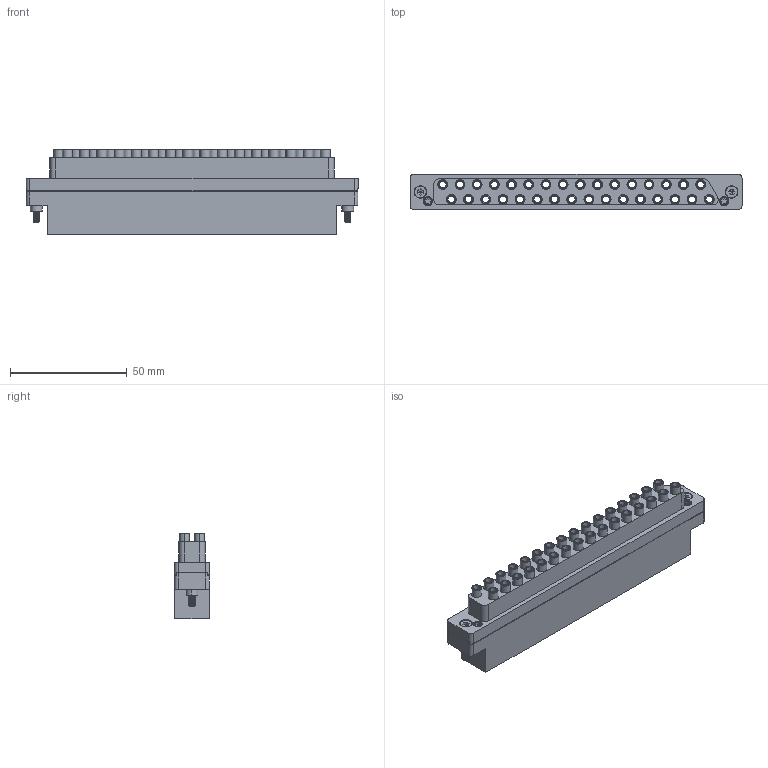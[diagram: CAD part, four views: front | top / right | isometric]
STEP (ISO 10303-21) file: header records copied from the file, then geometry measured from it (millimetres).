
FILE_DESCRIPTION (( 'STEP AP214' ), '1' );
FILE_NAME ('510104325.STEP', '2026-10-07T12:23:09', ( 'VPC Computer System' ), ( '' ), 'SwSTEP 2.0', 'SolidWorks 2026', '' );
FILE_SCHEMA (( 'AUTOMOTIVE_DESIGN' ));
Length unit declared in the file: inch
Products named in the file (1): 510104325
Bounding box: 142.24 x 14.99 x 36.83 mm (x, y, z)
Volume: 53303.9 mm3; surface area: 31071 mm2
Topology: 7 solids, 39 shells, 857 faces, 1985 edges, 1260 vertices
Faces by surface type: cylinder 453, plane 194, cone 182, torus 24, bspline 4
Entity records: 27106 total; most frequent: CARTESIAN_POINT 6871, DIRECTION 4475, ORIENTED_EDGE 3962, EDGE_CURVE 1981, AXIS2_PLACEMENT_3D 1842, VERTEX_POINT 1260, EDGE_LOOP 1051, CIRCLE 988
